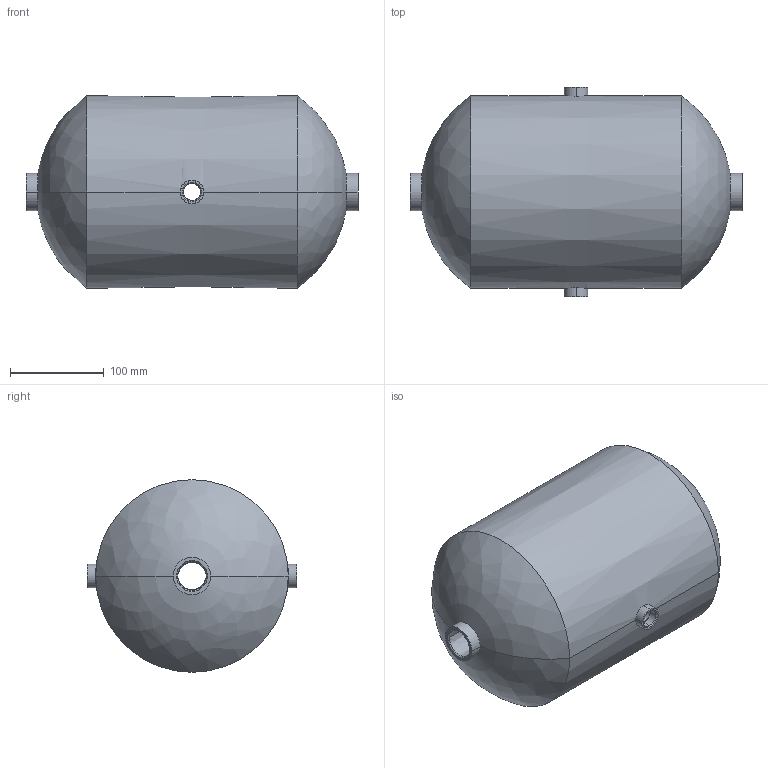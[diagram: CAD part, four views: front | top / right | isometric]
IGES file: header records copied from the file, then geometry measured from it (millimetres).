
Start section:  PTC IGES file: 3513000030\3513000030.iges
Global section: file name: 3513000030\3513000030.iges; native system: Creo Parametric by PTC Inc.; preprocessor: 2020044; author: THD3HC; organization: Unknown; date: 20231110.170854; units: millimetre
Bounding box: 355 x 224.48 x 206 mm (x, y, z)
Surface area: 278448.1 mm2 (no closed solid volume)
Topology: 0 solids, 0 shells, 33 faces, 170 edges, 170 vertices
Faces by surface type: revolution 29, bspline 4
